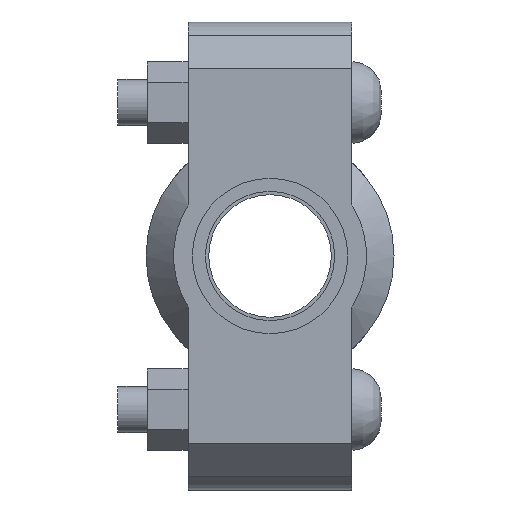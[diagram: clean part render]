
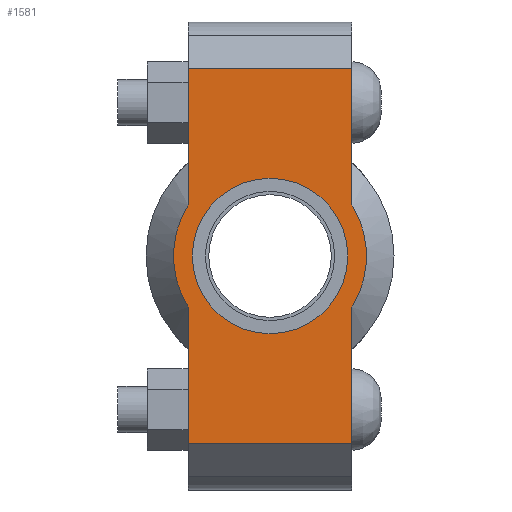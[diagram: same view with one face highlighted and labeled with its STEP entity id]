
A CAD part, left-side view. The second image highlights one B-rep face of the part: STEP entity #1581.
In plain terms, the highlighted planar face has unit normal (-1, 0, 0) as drawn and (0, 0, 1) by its records, which use the part's own axes.
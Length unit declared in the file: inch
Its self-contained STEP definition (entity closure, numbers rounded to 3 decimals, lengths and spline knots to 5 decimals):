
#136=LINE('',#2733,#233);
#151=LINE('',#2792,#248);
#159=LINE('',#2822,#256);
#161=LINE('',#2825,#258);
#162=LINE('',#2830,#259);
#163=LINE('',#2831,#260);
#233=VECTOR('',#2229,0.3937);
#248=VECTOR('',#2264,0.3937);
#256=VECTOR('',#2284,0.3937);
#258=VECTOR('',#2288,0.3937);
#259=VECTOR('',#2293,0.3937);
#260=VECTOR('',#2294,0.3937);
#324=FACE_BOUND('',#501,.T.);
#392=FACE_OUTER_BOUND('',#500,.T.);
#500=EDGE_LOOP('',(#1282,#1283,#1284,#1285,#1286,#1287,#1288,#1289));
#501=EDGE_LOOP('',(#1290));
#583=CIRCLE('',#1809,0.83);
#607=CIRCLE('',#1861,1.031);
#608=CIRCLE('',#1862,1.031);
#679=VERTEX_POINT('',#2559);
#720=VERTEX_POINT('',#2730);
#721=VERTEX_POINT('',#2732);
#742=VERTEX_POINT('',#2787);
#743=VERTEX_POINT('',#2791);
#752=VERTEX_POINT('',#2817);
#753=VERTEX_POINT('',#2821);
#754=VERTEX_POINT('',#2827);
#755=VERTEX_POINT('',#2829);
#843=EDGE_CURVE('',#679,#679,#583,.T.);
#900=EDGE_CURVE('',#721,#720,#136,.T.);
#925=EDGE_CURVE('',#743,#742,#151,.T.);
#938=EDGE_CURVE('',#753,#752,#159,.T.);
#940=EDGE_CURVE('',#753,#720,#161,.T.);
#941=EDGE_CURVE('',#752,#754,#607,.T.);
#942=EDGE_CURVE('',#754,#755,#162,.T.);
#943=EDGE_CURVE('',#743,#755,#163,.T.);
#944=EDGE_CURVE('',#742,#721,#608,.T.);
#1282=ORIENTED_EDGE('',*,*,#940,.F.);
#1283=ORIENTED_EDGE('',*,*,#938,.T.);
#1284=ORIENTED_EDGE('',*,*,#941,.T.);
#1285=ORIENTED_EDGE('',*,*,#942,.T.);
#1286=ORIENTED_EDGE('',*,*,#943,.F.);
#1287=ORIENTED_EDGE('',*,*,#925,.T.);
#1288=ORIENTED_EDGE('',*,*,#944,.T.);
#1289=ORIENTED_EDGE('',*,*,#900,.T.);
#1290=ORIENTED_EDGE('',*,*,#843,.T.);
#1421=PLANE('',#1860);
#1581=ADVANCED_FACE('',(#392,#324),#1421,.T.);
#1809=AXIS2_PLACEMENT_3D('',#2561,#2119,#2120);
#1860=AXIS2_PLACEMENT_3D('',#2826,#2289,#2290);
#1861=AXIS2_PLACEMENT_3D('',#2828,#2291,#2292);
#1862=AXIS2_PLACEMENT_3D('',#2832,#2295,#2296);
#2119=DIRECTION('center_axis',(0.,0.,-1.));
#2120=DIRECTION('ref_axis',(-1.,0.,0.));
#2229=DIRECTION('',(-1.,0.,0.));
#2264=DIRECTION('',(-1.,0.,0.));
#2284=DIRECTION('',(1.,0.,0.));
#2288=DIRECTION('',(0.,1.,0.));
#2289=DIRECTION('center_axis',(0.,0.,1.));
#2290=DIRECTION('ref_axis',(1.,0.,0.));
#2291=DIRECTION('center_axis',(0.,0.,1.));
#2292=DIRECTION('ref_axis',(-1.,0.,0.));
#2293=DIRECTION('',(1.,0.,0.));
#2294=DIRECTION('',(0.,-1.,0.));
#2295=DIRECTION('center_axis',(0.,0.,1.));
#2296=DIRECTION('ref_axis',(-1.,0.,0.));
#2559=CARTESIAN_POINT('',(0.83,0.,0.94));
#2561=CARTESIAN_POINT('Origin',(0.,0.,0.94));
#2730=CARTESIAN_POINT('',(-2.,0.875,0.94));
#2732=CARTESIAN_POINT('',(-0.54529,0.875,0.94));
#2733=CARTESIAN_POINT('',(2.5,0.875,0.94));
#2787=CARTESIAN_POINT('',(0.54529,0.875,0.94));
#2791=CARTESIAN_POINT('',(2.,0.875,0.94));
#2792=CARTESIAN_POINT('',(2.5,0.875,0.94));
#2817=CARTESIAN_POINT('',(-0.54529,-0.875,0.94));
#2821=CARTESIAN_POINT('',(-2.,-0.875,0.94));
#2822=CARTESIAN_POINT('',(-2.5,-0.875,0.94));
#2825=CARTESIAN_POINT('',(-2.,0.4375,0.94));
#2826=CARTESIAN_POINT('Origin',(0.,0.,
0.94));
#2827=CARTESIAN_POINT('',(0.54529,-0.875,0.94));
#2828=CARTESIAN_POINT('Origin',(0.,0.,0.94));
#2829=CARTESIAN_POINT('',(2.,-0.875,0.94));
#2830=CARTESIAN_POINT('',(-2.5,-0.875,0.94));
#2831=CARTESIAN_POINT('',(2.,-0.4375,0.94));
#2832=CARTESIAN_POINT('Origin',(0.,0.,0.94));
